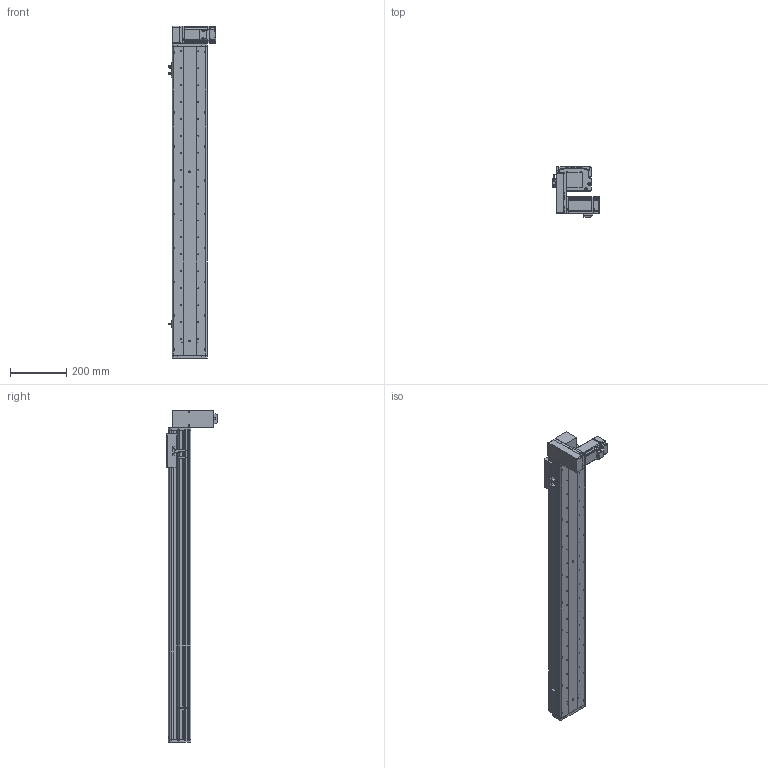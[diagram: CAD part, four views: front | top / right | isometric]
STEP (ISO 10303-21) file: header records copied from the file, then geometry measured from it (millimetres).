
FILE_DESCRIPTION (( 'STEP AP214' ), '1' );
FILE_NAME ('KSD125B-S900-MRD-CM.STEP', '2017-10-21T06:15:54', ( '微软用户' ), ( '微软中国' ), 'SwSTEP 2.0', 'SolidWorks 2014', '' );
FILE_SCHEMA (( 'AUTOMOTIVE_DESIGN' ));
Length unit declared in the file: millimetre
Products named in the file (17): U倰嫖萇EEㄜSX672; KSD125模组同步带-防撞垫1; 100宽马达安装板同步带右; 前端板-125宽模组同步带; 125模组同步带-尾端板1; KSD125模组同步带-滑动座1; KSD125B-S900-MRD-CM; 悵誘欶奻狟殏; HTPA30S3M150_A_H6_a佪裝蚚; HTPA30S3M150_A_H6_a萇儂蚚; 100宽马达安装板连板上下折丝杆同步带; KSD125模组900行程同步带-防尘盖; 125模组900行程同步带-底板; MHMD042G1CA_2_03; KSD125模组同步带-防撞垫2; 覜茼え68遵圉猾敕; U倰嫖萇假蚾璃
Assembly tree (20 placements, depth 2):
  KSD125B-S900-MRD-CM
    KSD125模组同步带-滑动座1
    125模组同步带-尾端板1
    前端板-125宽模组同步带
    100宽马达安装板同步带右
    KSD125模组同步带-防撞垫1
    U倰嫖萇EEㄜSX672  x3
    U倰嫖萇假蚾璃  x3
    覜茼え68遵圉猾敕
    KSD125模组同步带-防撞垫2
    MHMD042G1CA_2_03
    125模组900行程同步带-底板
    KSD125模组900行程同步带-防尘盖
    100宽马达安装板连板上下折丝杆同步带
    HTPA30S3M150_A_H6_a萇儂蚚
    HTPA30S3M150_A_H6_a佪裝蚚
    悵誘欶奻狟殏
Bounding box: 168.7 x 179.5 x 1177 mm (x, y, z)
Volume: 3660190 mm3; surface area: 1235779.4 mm2
Topology: 19 solids, 22 shells, 2297 faces, 6655 edges, 4398 vertices
Faces by surface type: cylinder 1444, plane 726, cone 105, bspline 22
Entity records: 81785 total; most frequent: CARTESIAN_POINT 16125, DIRECTION 12712, ORIENTED_EDGE 11830, EDGE_CURVE 5993, AXIS2_PLACEMENT_3D 4917, VERTEX_POINT 3990, VECTOR 2878, LINE 2878
